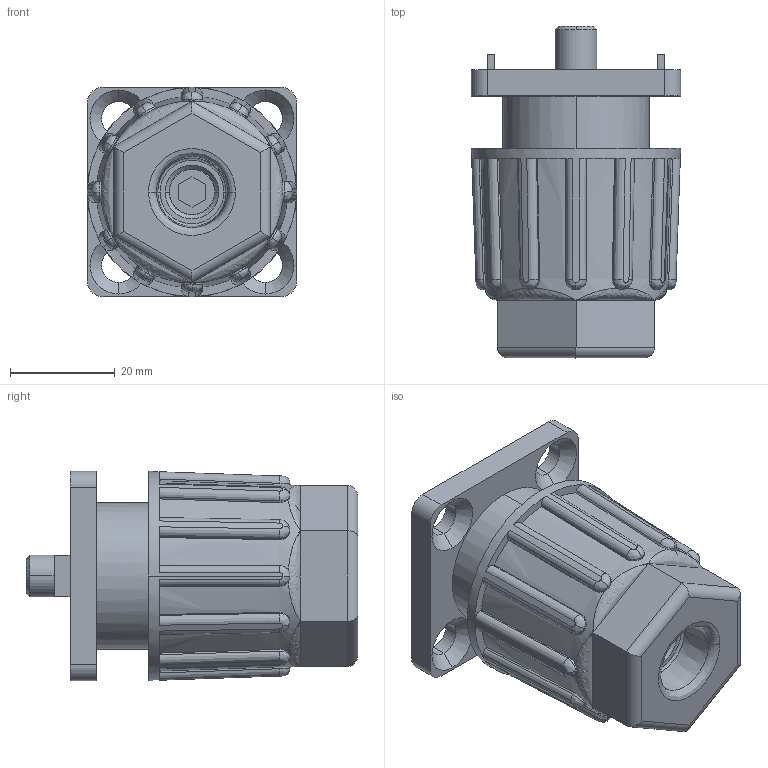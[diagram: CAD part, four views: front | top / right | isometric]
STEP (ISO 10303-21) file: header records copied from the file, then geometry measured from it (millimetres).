
FILE_DESCRIPTION (( 'STEP AP203' ), '1' );
FILE_NAME ('10442_RASPA.STEP', '2018-03-22T10:22:10', ( '' ), ( '' ), 'SwSTEP 2.0', 'SolidWorks 2017', '' );
FILE_SCHEMA (( 'CONFIG_CONTROL_DESIGN' ));
Length unit declared in the file: millimetre
Products named in the file (1): 10442_RASPA
Bounding box: 40 x 63.4 x 40 mm (x, y, z)
Volume: 40732.7 mm3; surface area: 23349.5 mm2
Topology: 4 solids, 4 shells, 391 faces, 1049 edges, 667 vertices
Faces by surface type: plane 165, cylinder 133, bspline 63, cone 30
Entity records: 15534 total; most frequent: CARTESIAN_POINT 6438, ORIENTED_EDGE 2074, DIRECTION 1619, EDGE_CURVE 1037, VERTEX_POINT 667, AXIS2_PLACEMENT_3D 574, VECTOR 471, LINE 471
